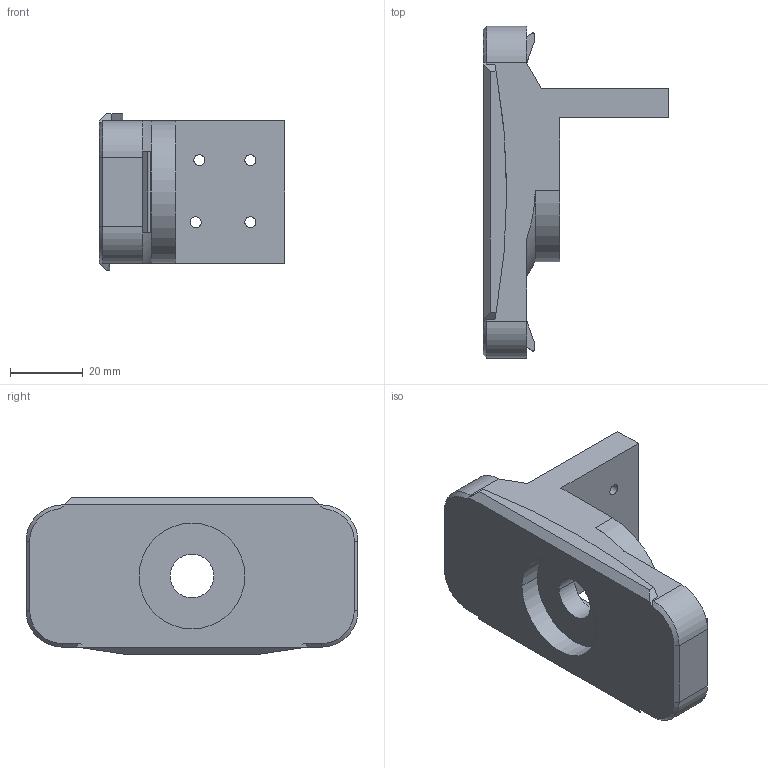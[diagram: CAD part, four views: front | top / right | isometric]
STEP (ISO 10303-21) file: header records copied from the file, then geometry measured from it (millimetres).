
FILE_DESCRIPTION(('CATIA V5 STEP Exchange'),'2;1');
FILE_NAME('D:\MENA 3D\BISMARK\BASE_MAIN_PANEL CONTROL.stp','2024-11-25T07:13:21+00:00',('none'),('none'),'CATIA Version 5 Release 21 GA (IN-10)','CATIA V5 STEP AP203','none');
FILE_SCHEMA(('CONFIG_CONTROL_DESIGN'));
Length unit declared in the file: millimetre
Products named in the file (1): BASE_MAIN_PANEL CONTROL
Bounding box: 51 x 91 x 43 mm (x, y, z)
Volume: 55248.5 mm3; surface area: 16310.8 mm2
Topology: 1 solids, 1 shells, 77 faces, 197 edges, 128 vertices
Faces by surface type: plane 42, cylinder 28, cone 5, extrusion 2
Entity records: 2299 total; most frequent: CARTESIAN_POINT 477, ORIENTED_EDGE 394, DIRECTION 295, EDGE_CURVE 197, VERTEX_POINT 128, VECTOR 120, AXIS2_PLACEMENT_3D 119, LINE 118
